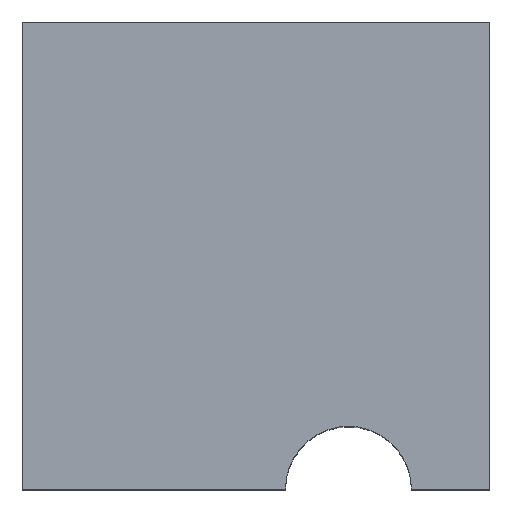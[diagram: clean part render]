
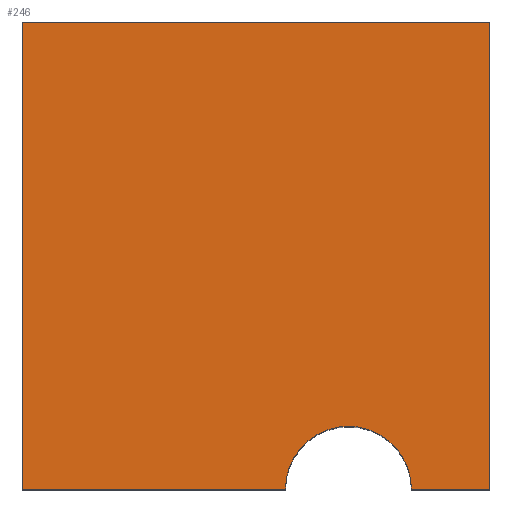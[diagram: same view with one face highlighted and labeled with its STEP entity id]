
A CAD part, top view. The second image highlights one B-rep face of the part: STEP entity #246.
In plain terms, the highlighted planar face has unit normal (0, 0, 1).
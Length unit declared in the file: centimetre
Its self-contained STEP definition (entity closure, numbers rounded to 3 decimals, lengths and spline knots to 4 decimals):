
#2 = CARTESIAN_POINT ( 'NONE',  ( 0., 0., 1000. ) ) ;
#21 = LINE ( 'NONE', #162, #266 ) ;
#27 = EDGE_CURVE ( 'NONE', #126, #331, #329, .T. ) ;
#37 = EDGE_CURVE ( 'NONE', #331, #141, #301, .T. ) ;
#52 = VERTEX_POINT ( 'NONE', #106 ) ;
#84 = PLANE ( 'NONE',  #288 ) ;
#95 = DIRECTION ( 'NONE',  ( 0., -1., 0. ) ) ;
#97 = CARTESIAN_POINT ( 'NONE',  ( 832.5944, 0., 1000. ) ) ;
#100 = EDGE_CURVE ( 'NONE', #52, #126, #21, .T. ) ;
#106 = CARTESIAN_POINT ( 'NONE',  ( 1000., 1000., 1000. ) ) ;
#109 = EDGE_LOOP ( 'NONE', ( #343, #242, #277, #308, #280, #215 ) ) ;
#111 = DIRECTION ( 'NONE',  ( 0., 1., 0. ) ) ;
#118 = CARTESIAN_POINT ( 'NONE',  ( 0., 0., 1000. ) ) ;
#126 = VERTEX_POINT ( 'NONE', #276 ) ;
#127 = VECTOR ( 'NONE', #357, 100. ) ;
#141 = VERTEX_POINT ( 'NONE', #282 ) ;
#153 = CARTESIAN_POINT ( 'NONE',  ( 0., 0., 1000. ) ) ;
#156 = EDGE_CURVE ( 'NONE', #141, #193, #164, .T. ) ;
#157 = DIRECTION ( 'NONE',  ( -1., 0., 0. ) ) ;
#162 = CARTESIAN_POINT ( 'NONE',  ( 0., 1000., 1000. ) ) ;
#164 = CIRCLE ( 'NONE', #355, 134.7769 ) ;
#193 = VERTEX_POINT ( 'NONE', #97 ) ;
#198 = DIRECTION ( 'NONE',  ( 0., 0., 1. ) ) ;
#215 = ORIENTED_EDGE ( 'NONE', *, *, #37, .T. ) ;
#234 = DIRECTION ( 'NONE',  ( 1., 0., 0. ) ) ;
#242 = ORIENTED_EDGE ( 'NONE', *, *, #358, .T. ) ;
#246 = ADVANCED_FACE ( 'NONE', ( #253 ), #84, .T. ) ;
#248 = VECTOR ( 'NONE', #95, 100. ) ;
#251 = CARTESIAN_POINT ( 'NONE',  ( 1000., 1000., 1000. ) ) ;
#253 = FACE_OUTER_BOUND ( 'NONE', #109, .T. ) ;
#256 = CARTESIAN_POINT ( 'NONE',  ( 0., 0., 1000. ) ) ;
#260 = CARTESIAN_POINT ( 'NONE',  ( 1000., 0., 1000. ) ) ;
#266 = VECTOR ( 'NONE', #338, 100. ) ;
#267 = CARTESIAN_POINT ( 'NONE',  ( 0., 1000., 1000. ) ) ;
#269 = CARTESIAN_POINT ( 'NONE',  ( 697.8175, 0., 1000. ) ) ;
#270 = VECTOR ( 'NONE', #234, 100. ) ;
#276 = CARTESIAN_POINT ( 'NONE',  ( 0., 1000., 1000. ) ) ;
#277 = ORIENTED_EDGE ( 'NONE', *, *, #360, .T. ) ;
#280 = ORIENTED_EDGE ( 'NONE', *, *, #27, .T. ) ;
#282 = CARTESIAN_POINT ( 'NONE',  ( 563.0407, 0., 1000. ) ) ;
#288 = AXIS2_PLACEMENT_3D ( 'NONE', #256, #198, #315 ) ;
#294 = LINE ( 'NONE', #251, #299 ) ;
#299 = VECTOR ( 'NONE', #111, 100. ) ;
#301 = LINE ( 'NONE', #153, #127 ) ;
#308 = ORIENTED_EDGE ( 'NONE', *, *, #100, .T. ) ;
#315 = DIRECTION ( 'NONE',  ( 1., 0., 0. ) ) ;
#329 = LINE ( 'NONE', #267, #248 ) ;
#331 = VERTEX_POINT ( 'NONE', #2 ) ;
#337 = VERTEX_POINT ( 'NONE', #260 ) ;
#338 = DIRECTION ( 'NONE',  ( -1., 0., 0. ) ) ;
#343 = ORIENTED_EDGE ( 'NONE', *, *, #156, .T. ) ;
#355 = AXIS2_PLACEMENT_3D ( 'NONE', #269, #361, #157 ) ;
#357 = DIRECTION ( 'NONE',  ( 1., 0., 0. ) ) ;
#358 = EDGE_CURVE ( 'NONE', #193, #337, #370, .T. ) ;
#360 = EDGE_CURVE ( 'NONE', #337, #52, #294, .T. ) ;
#361 = DIRECTION ( 'NONE',  ( 0., 0., -1. ) ) ;
#370 = LINE ( 'NONE', #118, #270 ) ;
